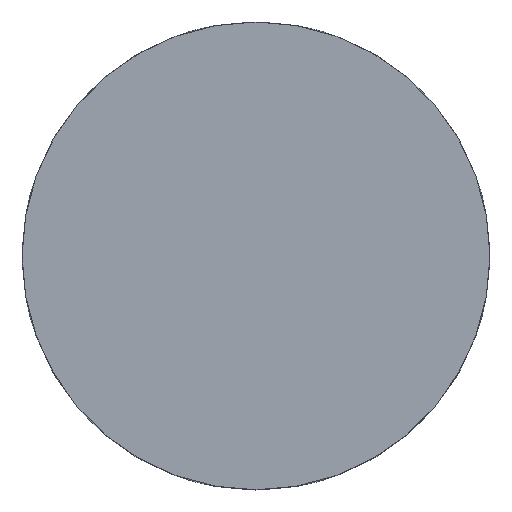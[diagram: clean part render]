
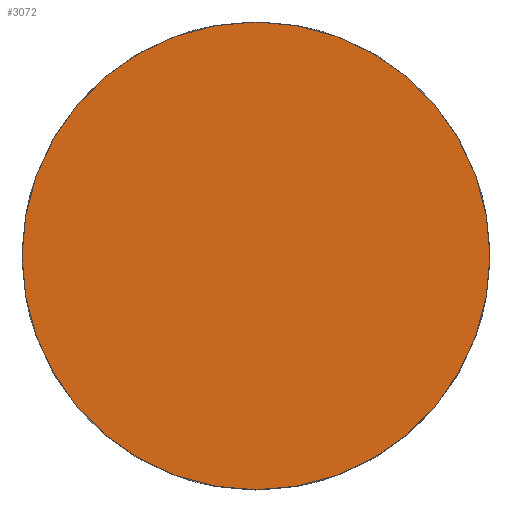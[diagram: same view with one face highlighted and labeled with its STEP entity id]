
A CAD part, top view. The second image highlights one B-rep face of the part: STEP entity #3072.
In plain terms, the highlighted planar face has unit normal (0, 0, 1).
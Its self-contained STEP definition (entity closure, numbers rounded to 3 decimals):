
#33 = CYLINDRICAL_SURFACE('',#34,22.);
#34 = AXIS2_PLACEMENT_3D('',#35,#36,#37);
#35 = CARTESIAN_POINT('',(0.,0.,24.));
#36 = DIRECTION('',(0.,0.,1.));
#37 = DIRECTION('',(1.,0.,-0.));
#113 = VERTEX_POINT('',#114);
#114 = CARTESIAN_POINT('',(22.,0.,36.));
#135 = EDGE_CURVE('',#113,#113,#136,.T.);
#136 = SURFACE_CURVE('',#137,(#142,#149),.PCURVE_S1.);
#137 = CIRCLE('',#138,22.);
#138 = AXIS2_PLACEMENT_3D('',#139,#140,#141);
#139 = CARTESIAN_POINT('',(0.,0.,36.));
#140 = DIRECTION('',(0.,0.,1.));
#141 = DIRECTION('',(1.,0.,-0.));
#142 = PCURVE('',#33,#143);
#143 = DEFINITIONAL_REPRESENTATION('',(#144),#148);
#144 = LINE('',#145,#146);
#145 = CARTESIAN_POINT('',(0.,12.));
#146 = VECTOR('',#147,1.);
#147 = DIRECTION('',(1.,0.));
#148 = ( GEOMETRIC_REPRESENTATION_CONTEXT(2) 
PARAMETRIC_REPRESENTATION_CONTEXT() REPRESENTATION_CONTEXT('2D SPACE',''
  ) );
#149 = PCURVE('',#150,#155);
#150 = PLANE('',#151);
#151 = AXIS2_PLACEMENT_3D('',#152,#153,#154);
#152 = CARTESIAN_POINT('',(0.,0.,36.));
#153 = DIRECTION('',(0.,0.,1.));
#154 = DIRECTION('',(1.,0.,-0.));
#155 = DEFINITIONAL_REPRESENTATION('',(#156),#160);
#156 = CIRCLE('',#157,22.);
#157 = AXIS2_PLACEMENT_2D('',#158,#159);
#158 = CARTESIAN_POINT('',(0.,0.));
#159 = DIRECTION('',(1.,0.));
#160 = ( GEOMETRIC_REPRESENTATION_CONTEXT(2) 
PARAMETRIC_REPRESENTATION_CONTEXT() REPRESENTATION_CONTEXT('2D SPACE',''
  ) );
#3072 = ADVANCED_FACE('',(#3073),#150,.T.);
#3073 = FACE_BOUND('',#3074,.T.);
#3074 = EDGE_LOOP('',(#3075));
#3075 = ORIENTED_EDGE('',*,*,#135,.T.);
